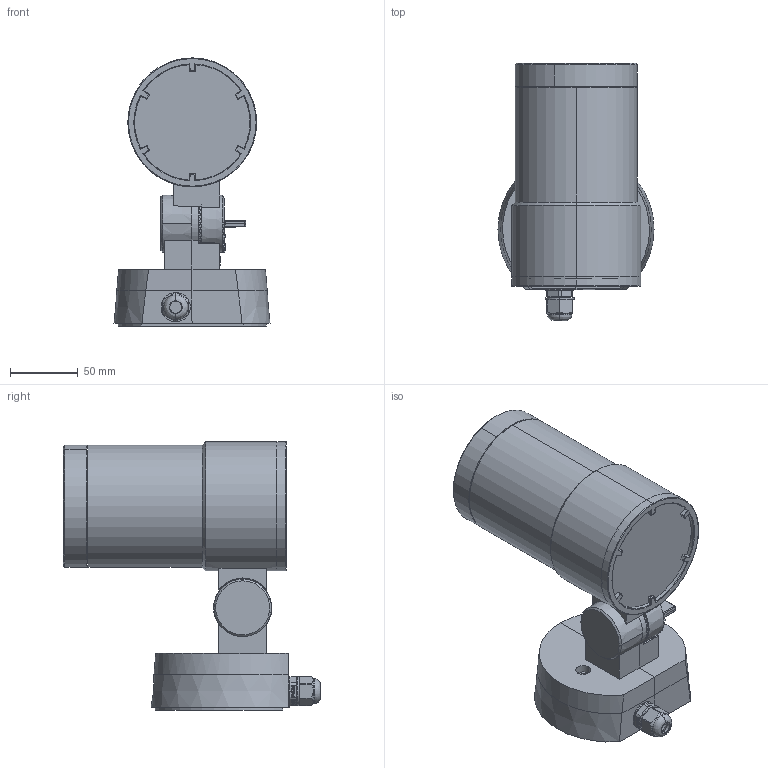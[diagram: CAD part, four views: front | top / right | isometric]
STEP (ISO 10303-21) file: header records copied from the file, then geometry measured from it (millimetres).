
FILE_DESCRIPTION((''),'2;1');
FILE_NAME('B3TPM0171_ASM','2024-09-02T',('C028'),(''),'CREO PARAMETRIC BY PTC INC, 2014190','CREO PARAMETRIC BY PTC INC, 2014190','');
FILE_SCHEMA(('CONFIG_CONTROL_DESIGN'));
Length unit declared in the file: millimetre
Products named in the file (32): 3TP____O___2_1_1_82; 3TP_____-156360_2_1_1_82; 3TP____-87333_2_1_1_82; 3TP_____-157034_2_1_1_82; _____D70_2__2_1_1_82; CFE-NC_D70__2_1_1_82; 3TP__O___2_1_1_82; 3TP___2_1_1_82; 3TP____2_1_1_82; 3TP_____-21039_2_1_1_82; PART4_0__2_1_1_82; 3TP____-19325_3_1_1_87; 3TP-DT_82; 3UD_____-21717_ASM_4_ASM_1_ASM__ASM; 3TP-B_; 0_0171_GB_4_1_1_128; 0_0171_GB-COVER_2_1_1_84; 0_0171_GB-THICK_2_1_1_94; 0_0171_GB-WALLCASE_2_1_1_87; B3BB-RUBBER_2_1_1_82; SCREW-M12_2_1_1_82; QUEEN_ASM_ASM_2_ASM_1_ASM_1_ASM_ASM; NLFSLM-M6_61; PG9_R9_1_1_45; 3TPGUIJIAOQUAN_15; 3TPPAOMIAN_3; GUDINGBAN_3; 7CHJUEYUANMUZUHE_3; MUZUYAZHUJIAN_ASM_3_ASM; 3TOJIAOSAI_4; B3TPM0171_DIZUO_ASM_82_ASM; B3TPM0171_ASM
Assembly tree (32 placements, depth 4):
  B3TPM0171_ASM
    B3TPM0171_DIZUO_ASM_82_ASM
      3UD_____-21717_ASM_4_ASM_1_ASM__ASM
        3TP____O___2_1_1_82
        3TP_____-156360_2_1_1_82
        3TP____-87333_2_1_1_82
        3TP_____-157034_2_1_1_82
        _____D70_2__2_1_1_82
        CFE-NC_D70__2_1_1_82
        3TP__O___2_1_1_82
        3TP___2_1_1_82
        3TP____2_1_1_82
        3TP_____-21039_2_1_1_82
        PART4_0__2_1_1_82
        3TP____-19325_3_1_1_87
        3TP-DT_82
      3TP-B_
      0_0171_GB_4_1_1_128
      0_0171_GB-COVER_2_1_1_84
      0_0171_GB-THICK_2_1_1_94
      0_0171_GB-WALLCASE_2_1_1_87
      QUEEN_ASM_ASM_2_ASM_1_ASM_1_ASM_ASM
        B3BB-RUBBER_2_1_1_82
        SCREW-M12_2_1_1_82
      NLFSLM-M6_61  x2
      PG9_R9_1_1_45
      3TPGUIJIAOQUAN_15
      3TPPAOMIAN_3
      MUZUYAZHUJIAN_ASM_3_ASM
        GUDINGBAN_3
        7CHJUEYUANMUZUHE_3
      3TOJIAOSAI_4
Bounding box: 115 x 189.27 x 197.56 mm (x, y, z)
Volume: 663349.1 mm3; surface area: 359598.4 mm2
Topology: 27 solids, 27 shells, 4589 faces, 11476 edges, 7006 vertices
Faces by surface type: bspline 1786, plane 1191, cylinder 670, cone 586, torus 189, sphere 99, extrusion 66, revolution 2
Entity records: 210484 total; most frequent: CARTESIAN_POINT 116750, ORIENTED_EDGE 22444, DIRECTION 14745, EDGE_CURVE 11222, VERTEX_POINT 6950, AXIS2_PLACEMENT_3D 5680, B_SPLINE_CURVE_WITH_KNOTS 5090, EDGE_LOOP 4904
